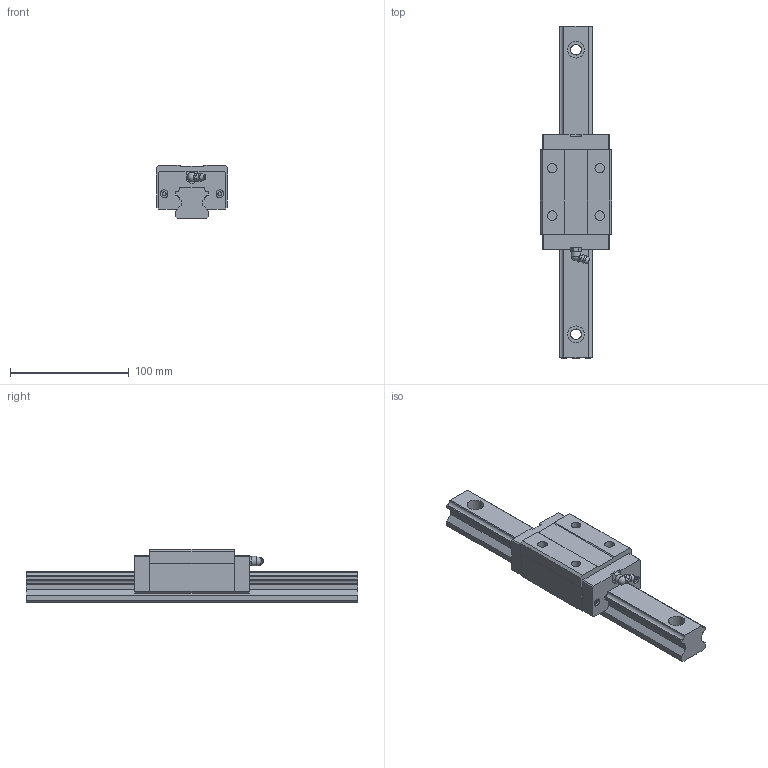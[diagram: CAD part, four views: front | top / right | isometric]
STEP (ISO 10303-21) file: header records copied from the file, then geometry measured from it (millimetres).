
FILE_DESCRIPTION(/* description */ (''),/* implementation_level */ '2;1');
FILE_NAME(/* name */ 'MSA30S',/* time_stamp */ '2003-12-29T10:40:57+08:00',/* author */ (''),/* organization */ (''),/* preprocessor_version */ 'ST-DEVELOPER v9',/* originating_system */ '',/* authorisation */ '');
FILE_SCHEMA (('CONFIG_CONTROL_DESIGN'));
Length unit declared in the file: millimetre
Products named in the file (1): zirc5932mw8t
Bounding box: 60 x 280 x 45 mm (x, y, z)
Volume: 321403.1 mm3; surface area: 63829.6 mm2
Topology: 3 solids, 3 shells, 183 faces, 480 edges, 316 vertices
Faces by surface type: plane 140, cylinder 32, torus 7, sphere 2, cone 1, bspline 1
Full cylindrical faces by diameter (mm): 3.25 x4, 6.5 x5, 8 x5, 9 x4, 14 x4
Entity records: 5641 total; most frequent: CARTESIAN_POINT 1106, DIRECTION 904, ORIENTED_EDGE 894, EDGE_CURVE 447, LINE 320, VECTOR 320, VERTEX_POINT 310, AXIS2_PLACEMENT_3D 292
